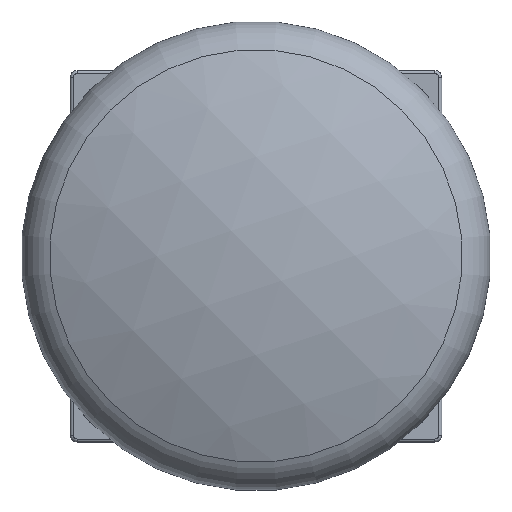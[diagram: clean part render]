
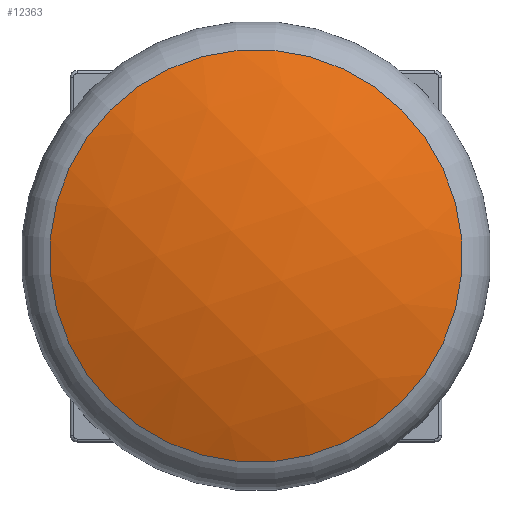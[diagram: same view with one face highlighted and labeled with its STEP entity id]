
A CAD part, top view. The second image highlights one B-rep face of the part: STEP entity #12363.
In plain terms, the highlighted spherical face has radius 615.278 mm.
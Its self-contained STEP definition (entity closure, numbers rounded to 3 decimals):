
#14=SPHERICAL_SURFACE('',#12946,615.278);
#3401=FACE_OUTER_BOUND('',#4138,.T.);
#4138=EDGE_LOOP('',(#10572));
#4644=CIRCLE('',#12945,241.596);
#5789=VERTEX_POINT('',#27458);
#7437=EDGE_CURVE('',#5789,#5789,#4644,.T.);
#10572=ORIENTED_EDGE('',*,*,#7437,.T.);
#12363=ADVANCED_FACE('',(#3401),#14,.T.);
#12945=AXIS2_PLACEMENT_3D('',#27459,#14492,#14493);
#12946=AXIS2_PLACEMENT_3D('',#27460,#14494,#14495);
#14492=DIRECTION('center_axis',(0.,0.,
1.));
#14493=DIRECTION('ref_axis',(-0.707,0.707,0.));
#14494=DIRECTION('center_axis',(-0.707,-0.707,0.));
#14495=DIRECTION('ref_axis',(0.707,-0.707,0.));
#27458=CARTESIAN_POINT('',(-170.834,170.834,255.283));
#27459=CARTESIAN_POINT('Origin',(0.,0.,
255.283));
#27460=CARTESIAN_POINT('Origin',(0.,0.,
-310.578));
